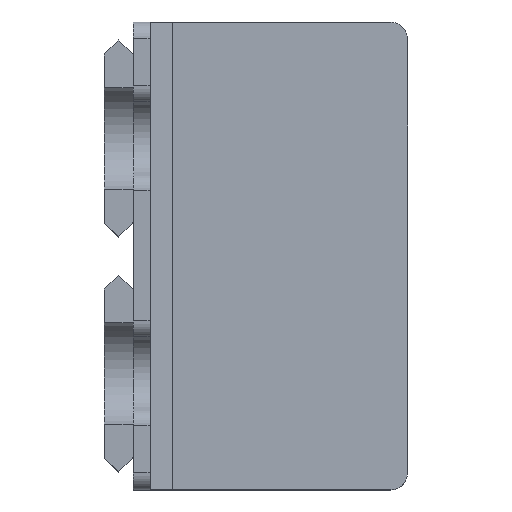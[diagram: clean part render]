
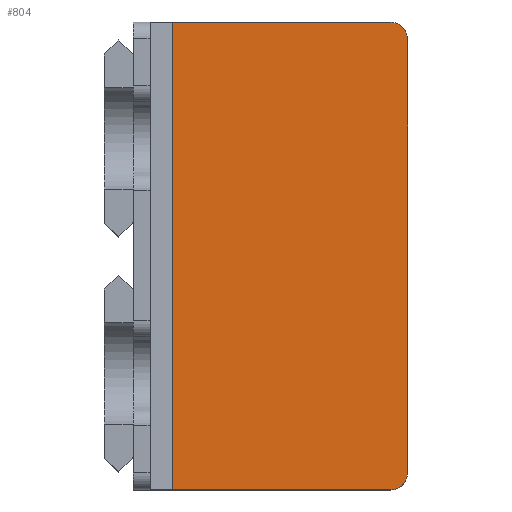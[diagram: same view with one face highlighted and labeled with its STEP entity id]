
A CAD part, top view. The second image highlights one B-rep face of the part: STEP entity #804.
In plain terms, the highlighted planar face has unit normal (0, 0, 1).
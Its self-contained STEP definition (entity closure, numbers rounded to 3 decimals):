
#29=CIRCLE('',#864,3.);
#30=CIRCLE('',#865,3.);
#54=FACE_OUTER_BOUND('',#99,.T.);
#99=EDGE_LOOP('',(#536,#537,#538,#539,#540,#541));
#146=LINE('',#1172,#241);
#149=LINE('',#1178,#244);
#150=LINE('',#1182,#245);
#151=LINE('',#1185,#246);
#241=VECTOR('',#936,10.);
#244=VECTOR('',#941,10.);
#245=VECTOR('',#944,10.);
#246=VECTOR('',#947,10.);
#336=VERTEX_POINT('',#1169);
#337=VERTEX_POINT('',#1171);
#339=VERTEX_POINT('',#1177);
#340=VERTEX_POINT('',#1179);
#341=VERTEX_POINT('',#1181);
#342=VERTEX_POINT('',#1183);
#414=EDGE_CURVE('',#336,#337,#146,.T.);
#417=EDGE_CURVE('',#339,#336,#149,.T.);
#418=EDGE_CURVE('',#340,#339,#29,.T.);
#419=EDGE_CURVE('',#341,#340,#150,.T.);
#420=EDGE_CURVE('',#342,#341,#30,.T.);
#421=EDGE_CURVE('',#342,#337,#151,.T.);
#536=ORIENTED_EDGE('',*,*,#414,.F.);
#537=ORIENTED_EDGE('',*,*,#417,.F.);
#538=ORIENTED_EDGE('',*,*,#418,.F.);
#539=ORIENTED_EDGE('',*,*,#419,.F.);
#540=ORIENTED_EDGE('',*,*,#420,.F.);
#541=ORIENTED_EDGE('',*,*,#421,.T.);
#771=PLANE('',#863);
#804=ADVANCED_FACE('',(#54),#771,.F.);
#863=AXIS2_PLACEMENT_3D('',#1176,#939,#940);
#864=AXIS2_PLACEMENT_3D('',#1180,#942,#943);
#865=AXIS2_PLACEMENT_3D('',#1184,#945,#946);
#936=DIRECTION('',(0.,1.,0.));
#939=DIRECTION('center_axis',(0.,0.,-1.));
#940=DIRECTION('ref_axis',(1.,0.,0.));
#941=DIRECTION('',(-1.,0.,0.));
#942=DIRECTION('center_axis',(0.,0.,-1.));
#943=DIRECTION('ref_axis',(0.707,-0.707,0.));
#944=DIRECTION('',(0.,-1.,0.));
#945=DIRECTION('center_axis',(0.,0.,-1.));
#946=DIRECTION('ref_axis',(0.707,0.707,0.));
#947=DIRECTION('',(-1.,0.,0.));
#1169=CARTESIAN_POINT('',(103.15,-20.8,-168.15));
#1171=CARTESIAN_POINT('',(103.15,62.8,-168.15));
#1172=CARTESIAN_POINT('',(103.15,10.5,-168.15));
#1176=CARTESIAN_POINT('Origin',(122.15,21.,-168.15));
#1177=CARTESIAN_POINT('',(142.15,-20.8,-168.15));
#1178=CARTESIAN_POINT('',(122.15,-20.8,-168.15));
#1179=CARTESIAN_POINT('',(145.15,-17.8,-168.15));
#1180=CARTESIAN_POINT('Origin',(142.15,-17.8,-168.15));
#1181=CARTESIAN_POINT('',(145.15,59.8,-168.15));
#1182=CARTESIAN_POINT('',(145.15,21.,-168.15));
#1183=CARTESIAN_POINT('',(142.15,62.8,-168.15));
#1184=CARTESIAN_POINT('Origin',(142.15,59.8,-168.15));
#1185=CARTESIAN_POINT('',(122.15,62.8,-168.15));
